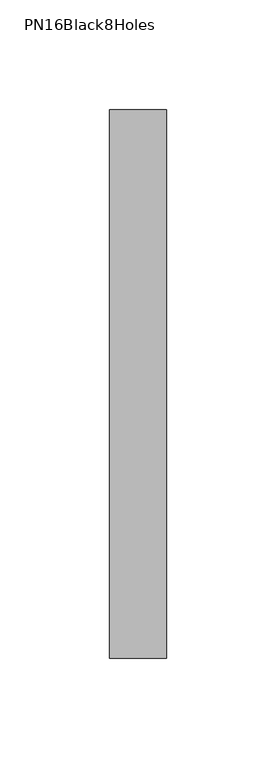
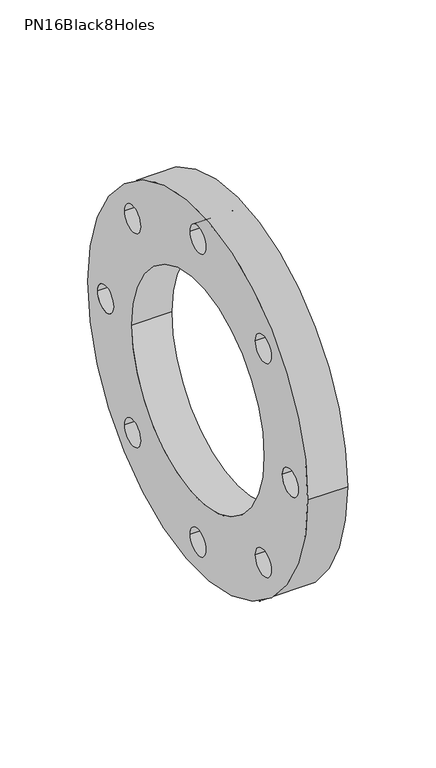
"""IFC4 building model written with IfcOpenShell, lengths in millimetres: pipe fitting geometry, PipeAccessory_GirpiHTA_CPVC_BackingRingsPN16Black8HolesFlangeAndGasket : PN16Black8Holes."""

from ifc_helpers import new_model, si_unit, point, frame, frame_2d, origin, origin_2d, place, context, project, spatial, circle_curve, trimmed, segment, composite_curve, outline, extrude, source, transform, mapped, element, save


def pn16black8holes_7e1fbb1e(model_context):
    return source(origin(), model_context, "Body", "SweptSolid", [
        extrude(outline(composite_curve([segment(trimmed(circle_curve(origin_2d(), 125.0), [point((-125.0, 0.0))], [point((125.0, 0.0))], False, "CARTESIAN"), True, "CONTINUOUS"), segment(trimmed(circle_curve(origin_2d(), 125.0), [point((125.0, 0.0))], [point((-125.0, 0.0))], False, "CARTESIAN"), True, "CONTINUOUS")], self_intersect=False), holes=[composite_curve([segment(trimmed(circle_curve(origin_2d(), 75.0), [point((-75.0, 0.0))], [point((75.0, 0.0))], True, "CARTESIAN"), True, "CONTINUOUS"), segment(trimmed(circle_curve(origin_2d(), 75.0), [point((75.0, 0.0))], [point((-75.0, 0.0))], True, "CARTESIAN"), True, "CONTINUOUS")], self_intersect=False), composite_curve([segment(trimmed(circle_curve(frame_2d((0.0, 105.0)), 9.0), [point((-9.0, 105.0))], [point((9.0, 105.0))], True, "CARTESIAN"), True, "CONTINUOUS"), segment(trimmed(circle_curve(frame_2d((0.0, 105.0)), 9.0), [point((9.0, 105.0))], [point((-9.0, 105.0))], True, "CARTESIAN"), True, "CONTINUOUS")], self_intersect=False), composite_curve([segment(trimmed(circle_curve(frame_2d((105.0, 0.0)), 9.0), [point((96.0, 0.0))], [point((114.0, 0.0))], True, "CARTESIAN"), True, "CONTINUOUS"), segment(trimmed(circle_curve(frame_2d((105.0, 0.0)), 9.0), [point((114.0, 0.0))], [point((96.0, 0.0))], True, "CARTESIAN"), True, "CONTINUOUS")], self_intersect=False), composite_curve([segment(trimmed(circle_curve(frame_2d((0.0, -105.0)), 9.0), [point((-9.0, -105.0))], [point((9.0, -105.0))], True, "CARTESIAN"), True, "CONTINUOUS"), segment(trimmed(circle_curve(frame_2d((0.0, -105.0)), 9.0), [point((9.0, -105.0))], [point((-9.0, -105.0))], True, "CARTESIAN"), True, "CONTINUOUS")], self_intersect=False), composite_curve([segment(trimmed(circle_curve(frame_2d((-105.0, 0.0)), 9.0), [point((-114.0, 0.0))], [point((-96.0, 0.0))], True, "CARTESIAN"), True, "CONTINUOUS"), segment(trimmed(circle_curve(frame_2d((-105.0, 0.0)), 9.0), [point((-96.0, 0.0))], [point((-114.0, 0.0))], True, "CARTESIAN"), True, "CONTINUOUS")], self_intersect=False), composite_curve([segment(trimmed(circle_curve(frame_2d((-74.246212, 74.246212)), 9.0), [point((-83.246212, 74.246212))], [point((-65.246212, 74.246212))], True, "CARTESIAN"), True, "CONTINUOUS"), segment(trimmed(circle_curve(frame_2d((-74.246212, 74.246212)), 9.0), [point((-65.246212, 74.246212))], [point((-83.246212, 74.246212))], True, "CARTESIAN"), True, "CONTINUOUS")], self_intersect=False), composite_curve([segment(trimmed(circle_curve(frame_2d((74.246212, -74.246212)), 9.0), [point((65.246212, -74.246212))], [point((83.246212, -74.246212))], True, "CARTESIAN"), True, "CONTINUOUS"), segment(trimmed(circle_curve(frame_2d((74.246212, -74.246212)), 9.0), [point((83.246212, -74.246212))], [point((65.246212, -74.246212))], True, "CARTESIAN"), True, "CONTINUOUS")], self_intersect=False), composite_curve([segment(trimmed(circle_curve(frame_2d((-74.246212, -74.246212)), 9.0), [point((-83.246212, -74.246212))], [point((-65.246212, -74.246212))], True, "CARTESIAN"), True, "CONTINUOUS"), segment(trimmed(circle_curve(frame_2d((-74.246212, -74.246212)), 9.0), [point((-65.246212, -74.246212))], [point((-83.246212, -74.246212))], True, "CARTESIAN"), True, "CONTINUOUS")], self_intersect=False), composite_curve([segment(trimmed(circle_curve(frame_2d((74.246212, 74.246212)), 9.0), [point((65.246212, 74.246212))], [point((83.246212, 74.246212))], True, "CARTESIAN"), True, "CONTINUOUS"), segment(trimmed(circle_curve(frame_2d((74.246212, 74.246212)), 9.0), [point((83.246212, 74.246212))], [point((65.246212, 74.246212))], True, "CARTESIAN"), True, "CONTINUOUS")], self_intersect=False)]), frame((-13.0, 0.0, 0.0), z_axis=(1.0, 0.0, 0.0), x_axis=(0.0, 1.0, 0.0)), (0.0, 0.0, 1.0), 26.0),
    ])


if __name__ == "__main__":
    model = new_model("IFC4")
    model_context = context("Model", 3, world=origin())
    ifc_project = project(units=[si_unit("LENGTHUNIT", "METRE", prefix="MILLI")], contexts=[model_context])
    site = spatial("IfcSite", under=ifc_project)
    building = spatial("IfcBuilding", under=site)
    placement = place(None, origin())
    pn16black8holes_shape = pn16black8holes_7e1fbb1e(model_context)
    element("IfcPipeFitting", 1, ObjectType="PipeAccessory_GirpiHTA_CPVC_BackingRingsPN16Black8HolesFlangeAndGasket : PN16Black8Holes", at=placement, inside=building, context=model_context, shape_type="MappedRepresentation", body=[
        mapped(pn16black8holes_shape, transform((0.0, 0.0, 0.0), x_axis=(1.0, 0.0, 0.0), y_axis=(0.0, 1.0, 0.0), z_axis=(0.0, 0.0, 1.0))),
    ])
    save(model, "model.ifc")
